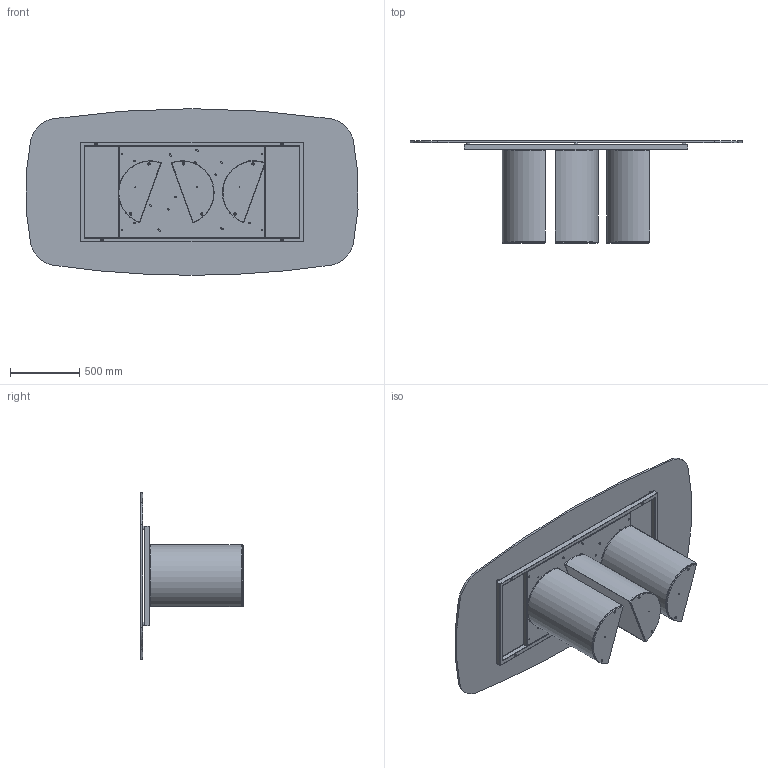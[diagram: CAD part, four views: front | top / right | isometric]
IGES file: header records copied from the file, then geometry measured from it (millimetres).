
Start section: SolidWorks IGES file using analytic representation for surfaces
Global section: file name: Y:\eforma\TECNICO\SOLIDWORKS\E-FORMA\1-TAVOLI\PLAI\02 parts\PL43G.IGS; native system: SolidWorks 2022; preprocessor: SolidWorks 2022; author: eforma.tech; date: 240807.155523; units: millimetre
Bounding box: 2391.62 x 739 x 1200 mm (x, y, z)
Volume: 52586842.9 mm3; surface area: 14052928.6 mm2
Topology: 48 solids, 48 shells, 1117 faces, 2501 edges, 1462 vertices
Faces by surface type: revolution 650, plane 467
